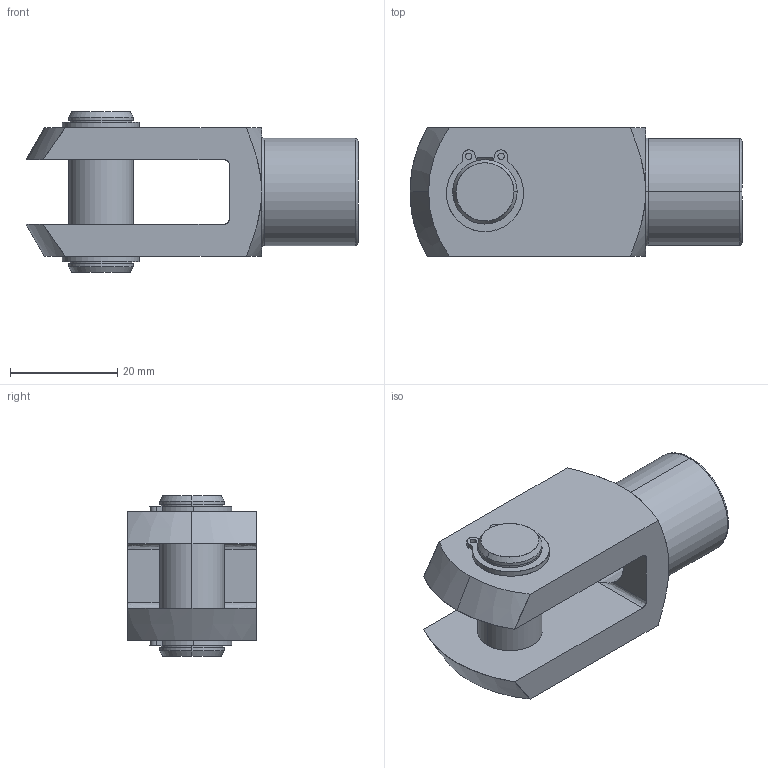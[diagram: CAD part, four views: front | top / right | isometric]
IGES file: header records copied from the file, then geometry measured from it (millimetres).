
Start section: SolidWorks IGES file using analytic representation for surfaces
Global section: file name: C:\Documents and Settings\IANO\My Documents\Wix and Auto CAD Work\CAD Models\Parametric Models\Wix Models\60000\65614_v2\65614_v2_IGES\65614.W0123.igs; native system: SolidWorks 2009; preprocessor: SolidWorks 2009; author: IANO; date: 140118.104029; units: millimetre
Bounding box: 62 x 24 x 30 mm (x, y, z)
Surface area: 9340.7 mm2 (no closed solid volume)
Topology: 0 solids, 0 shells, 95 faces, 1580 edges, 1580 vertices
Faces by surface type: revolution 63, bspline 32
